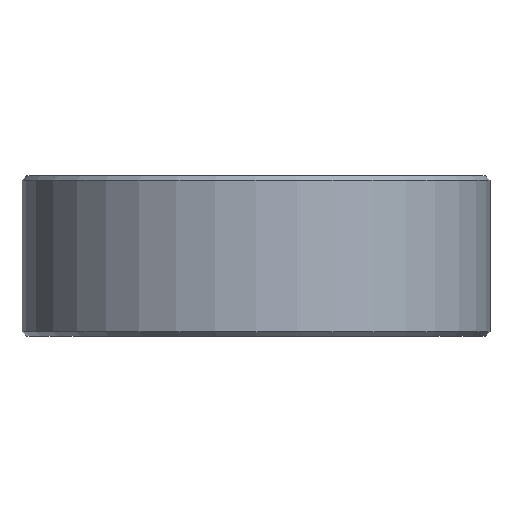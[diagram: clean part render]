
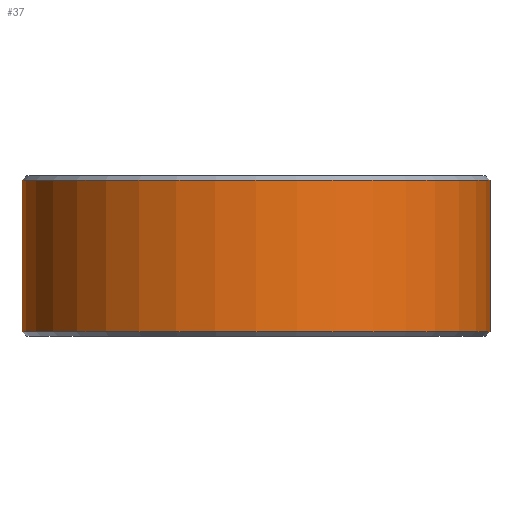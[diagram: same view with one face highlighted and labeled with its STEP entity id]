
A CAD part, front view. The second image highlights one B-rep face of the part: STEP entity #37.
In plain terms, the highlighted cylindrical face has radius 15 mm (diameter 30 mm), a partial arc.
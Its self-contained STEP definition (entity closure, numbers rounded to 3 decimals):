
#35 = DIRECTION ( 'NONE',  ( -1., 0., 0. ) ) ;
#37 = ADVANCED_FACE ( 'NONE', ( #272 ), #112, .T. ) ;
#52 = CARTESIAN_POINT ( 'NONE',  ( 15., 0., -0.3 ) ) ;
#75 = EDGE_CURVE ( 'NONE', #198, #565, #498, .T. ) ;
#87 = CIRCLE ( 'NONE', #442, 15. ) ;
#109 = DIRECTION ( 'NONE',  ( 0., 0., 1. ) ) ;
#112 = CYLINDRICAL_SURFACE ( 'NONE', #367, 15. ) ;
#119 = AXIS2_PLACEMENT_3D ( 'NONE', #495, #277, #503 ) ;
#143 = DIRECTION ( 'NONE',  ( 1., 0., 0. ) ) ;
#147 = DIRECTION ( 'NONE',  ( 0., 0., 1. ) ) ;
#165 = CARTESIAN_POINT ( 'NONE',  ( 15., 0., -10. ) ) ;
#170 = CIRCLE ( 'NONE', #119, 15. ) ;
#198 = VERTEX_POINT ( 'NONE', #165 ) ;
#215 = CARTESIAN_POINT ( 'NONE',  ( -15., 0., -0.3 ) ) ;
#216 = DIRECTION ( 'NONE',  ( 0., 0., 1. ) ) ;
#230 = EDGE_CURVE ( 'NONE', #263, #580, #475, .T. ) ;
#235 = ORIENTED_EDGE ( 'NONE', *, *, #505, .T. ) ;
#241 = EDGE_CURVE ( 'NONE', #263, #198, #170, .T. ) ;
#252 = EDGE_LOOP ( 'NONE', ( #655, #383, #425, #235 ) ) ;
#263 = VERTEX_POINT ( 'NONE', #330 ) ;
#272 = FACE_OUTER_BOUND ( 'NONE', #252, .T. ) ;
#277 = DIRECTION ( 'NONE',  ( 0., 0., 1. ) ) ;
#327 = VECTOR ( 'NONE', #109, 1000. ) ;
#330 = CARTESIAN_POINT ( 'NONE',  ( -15., 0., -10. ) ) ;
#367 = AXIS2_PLACEMENT_3D ( 'NONE', #472, #147, #143 ) ;
#383 = ORIENTED_EDGE ( 'NONE', *, *, #241, .T. ) ;
#425 = ORIENTED_EDGE ( 'NONE', *, *, #75, .T. ) ;
#442 = AXIS2_PLACEMENT_3D ( 'NONE', #476, #480, #35 ) ;
#472 = CARTESIAN_POINT ( 'NONE',  ( 0., 0., -10.921 ) ) ;
#475 = LINE ( 'NONE', #727, #327 ) ;
#476 = CARTESIAN_POINT ( 'NONE',  ( 0., 0., -0.3 ) ) ;
#480 = DIRECTION ( 'NONE',  ( 0., 0., -1. ) ) ;
#495 = CARTESIAN_POINT ( 'NONE',  ( 0., 0., -10. ) ) ;
#498 = LINE ( 'NONE', #539, #679 ) ;
#503 = DIRECTION ( 'NONE',  ( 1., 0., 0. ) ) ;
#505 = EDGE_CURVE ( 'NONE', #565, #580, #87, .T. ) ;
#539 = CARTESIAN_POINT ( 'NONE',  ( 15., 0., -10.921 ) ) ;
#565 = VERTEX_POINT ( 'NONE', #52 ) ;
#580 = VERTEX_POINT ( 'NONE', #215 ) ;
#655 = ORIENTED_EDGE ( 'NONE', *, *, #230, .F. ) ;
#679 = VECTOR ( 'NONE', #216, 1000. ) ;
#727 = CARTESIAN_POINT ( 'NONE',  ( -15., 0., -10.921 ) ) ;
